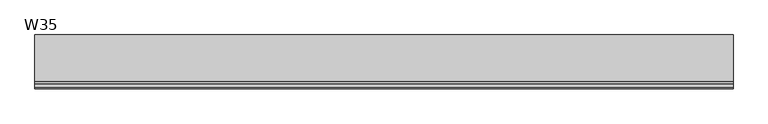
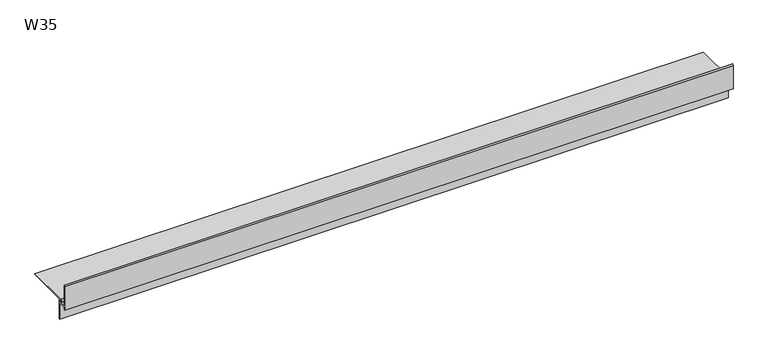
"""IFC4 building model written with IfcOpenShell, lengths in millimetres: proxy geometry, W35 Profil okapowy prosty z rynną : W35."""

from ifc_helpers import new_model, si_unit, point, frame, frame_2d, origin, place, context, project, spatial, polyline, circle_curve, trimmed, segment, composite_curve, outline, extrude, source, transform, mapped, element, save


def w35_c7dd2676(model_context):
    return source(origin(), model_context, "Body", "SweptSolid", [
        extrude(outline(composite_curve([segment(polyline([(-6.45625, -36.4912009), (-6.4562498, -76.1912009), (-7.9562498, -76.1912009), (-7.9562498, -43.2912011), (-22.5562498, -43.2912011), (-22.5562498, -47.1447542), (-24.0562499, -48.6447543), (-24.0562499, -2.248618)]), True, "CONTINUOUS"), segment(trimmed(circle_curve(frame_2d((-21.7562505, -2.248618)), 2.2999994), [point((-24.0562499, -2.248618))], [point((-22.2404603, -0.0001657))], False, "CARTESIAN"), True, "CONTINUOUS"), segment(polyline([(-22.2404603, -0.0001657), (-21.9232762, -1.4858246)]), True, "CONTINUOUS"), segment(trimmed(circle_curve(frame_2d((-21.756241, -2.2682013)), 0.8000089), [point((-21.9232762, -1.4858246))], [point((-22.5562498, -2.2682013))], True, "CARTESIAN"), True, "CONTINUOUS"), segment(polyline([(-22.5562498, -2.2682013), (-22.5562497, -41.7912008), (-7.9562498, -41.7912008), (-7.9562498, -36.4912009), (-10.9562498, -36.4912009)]), True, "CONTINUOUS"), segment(trimmed(circle_curve(frame_2d((-10.9562498, -38.9912009)), 2.5), [point((-10.9562498, -36.4912009))], [point((-13.3562498, -38.291201))], True, "CARTESIAN"), True, "CONTINUOUS"), segment(polyline([(-13.3562498, -38.291201), (-14.8884421, -38.291201)]), True, "CONTINUOUS"), segment(trimmed(circle_curve(frame_2d((-10.9605833, -38.9787852)), 3.9875866), [point((-14.8884421, -38.291201))], [point((-10.9562499, -34.9912009))], False, "CARTESIAN"), True, "CONTINUOUS"), segment(polyline([(-10.9562499, -34.9912009), (73.5437501, -34.9912009), (73.5437501, -36.4912009), (-6.45625, -36.4912009)]), True, "CONTINUOUS")], self_intersect=False)), frame((0.0, 0.0, 0.0), z_axis=(1.0, 0.0, 0.0), x_axis=(0.0, 1.0, 0.0)), (0.0, 0.0, 1.0), 1265.4547014),
    ])


if __name__ == "__main__":
    model = new_model("IFC4")
    model_context = context("Model", 3, world=origin())
    ifc_project = project(units=[si_unit("LENGTHUNIT", "METRE", prefix="MILLI")], contexts=[model_context])
    site = spatial("IfcSite", under=ifc_project)
    building = spatial("IfcBuilding", under=site)
    placement = place(None, origin())
    w35_shape = w35_c7dd2676(model_context)
    element("IfcBuildingElementProxy", 1, Name="W35 Profil okapowy prosty z rynną : W35", ObjectType="W35 Profil okapowy prosty z rynną : W35", at=placement, inside=building, context=model_context, shape_type="MappedRepresentation", body=[
        mapped(w35_shape, transform((0.0, 0.0, 0.0), x_axis=(1.0, 0.0, 0.0), y_axis=(0.0, 1.0, 0.0), z_axis=(0.0, 0.0, 1.0))),
    ])
    save(model, "model.ifc")
